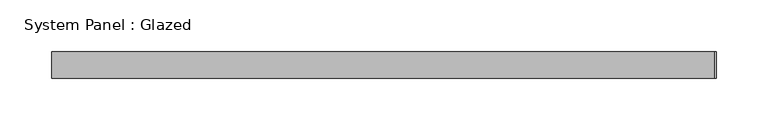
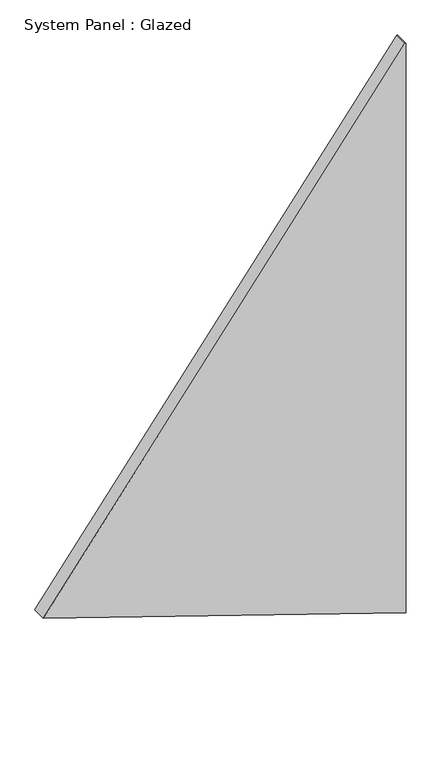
"""IFC4 building model written with IfcOpenShell, lengths in millimetres: plate geometry, System Panel : Glazed."""

from ifc_helpers import new_model, si_unit, frame, origin, place, context, project, spatial, polyline, outline, extrude, source, transform, mapped, element, save


def system_panel_glazed_0465c066(model_context):
    return source(origin(), model_context, "Body", "SweptSolid", [
        extrude(outline(polyline([(214.8048545, -321.0064167), (0.0, 320.9955397), (1064.2761637, 321.0064167), (1064.790895, 319.468004), (214.8048545, -321.0064167)])), frame((0.0, -44.45, 0.0), z_axis=(0.0, 1.0, 0.0), x_axis=(0.0, 0.0, 1.0)), (0.0, 0.0, 1.0), 25.4),
    ])


if __name__ == "__main__":
    model = new_model("IFC4")
    model_context = context("Model", 3, world=origin())
    ifc_project = project(units=[si_unit("LENGTHUNIT", "METRE", prefix="MILLI")], contexts=[model_context])
    site = spatial("IfcSite", under=ifc_project)
    building = spatial("IfcBuilding", under=site)
    placement = place(None, origin())
    system_panel_glazed_shape = system_panel_glazed_0465c066(model_context)
    element("IfcPlate", 1, ObjectType="System Panel : Glazed", at=placement, inside=building, context=model_context, shape_type="MappedRepresentation", body=[
        mapped(system_panel_glazed_shape, transform((0.0, 0.0, 0.0), x_axis=(1.0, 0.0, 0.0), y_axis=(0.0, 1.0, 0.0), z_axis=(0.0, 0.0, 1.0))),
    ])
    save(model, "model.ifc")
